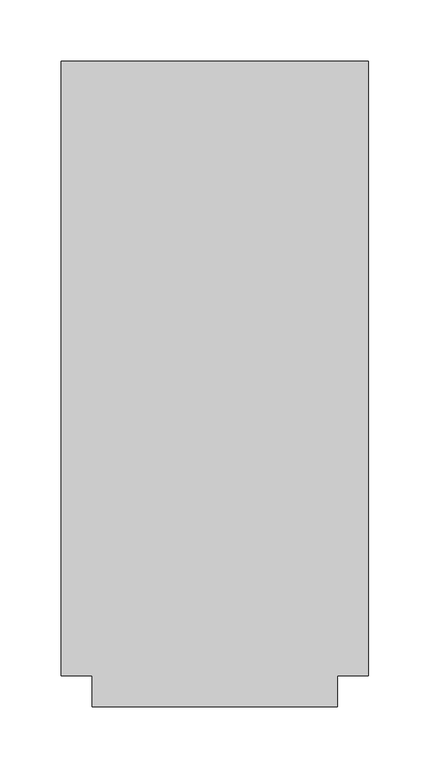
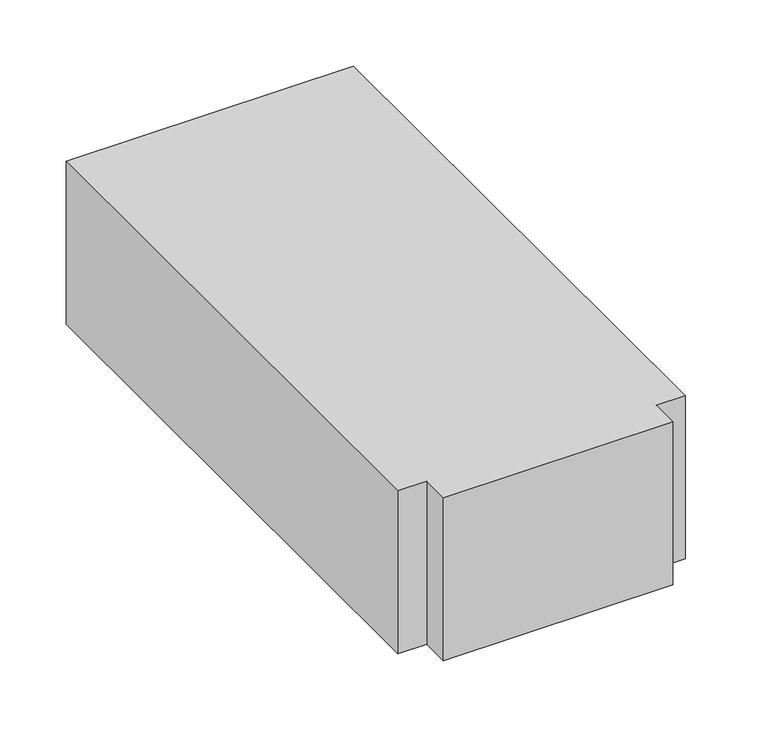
"""IFC4 building model written with IfcOpenShell, lengths in millimetres: duct fitting geometry, M_Te rectangular : Estándar."""

from ifc_helpers import new_model, si_unit, frame, origin, place, context, project, spatial, polyline, outline, extrude, source, transform, mapped, element, save


def duct_fitting_a9177d54(model_context):
    return source(origin(), model_context, "Body", "SweptSolid", [
        extrude(outline(polyline([(-125.0, -250.0), (-125.0, 250.0), (125.0, 250.0), (125.0, -250.0), (100.0, -250.0), (100.0, -275.0), (-100.0, -275.0), (-100.0, -250.0), (-125.0, -250.0)])), frame((0.0, 0.0, -75.0), z_axis=(0.0, 0.0, 1.0), x_axis=(1.0, 0.0, 0.0)), (0.0, 0.0, 1.0), 150.0),
    ])


if __name__ == "__main__":
    model = new_model("IFC4")
    model_context = context("Model", 3, world=origin())
    ifc_project = project(units=[si_unit("LENGTHUNIT", "METRE", prefix="MILLI")], contexts=[model_context])
    site = spatial("IfcSite", under=ifc_project)
    building = spatial("IfcBuilding", under=site)
    placement = place(None, origin())
    duct_fitting_shape = duct_fitting_a9177d54(model_context)
    element("IfcDuctFitting", 1, ObjectType="M_Te rectangular : Estándar", at=placement, inside=building, context=model_context, shape_type="MappedRepresentation", body=[
        mapped(duct_fitting_shape, transform((0.0, 0.0, 0.0), x_axis=(1.0, 0.0, 0.0), y_axis=(0.0, 1.0, 0.0), z_axis=(0.0, 0.0, 1.0))),
    ])
    save(model, "model.ifc")
